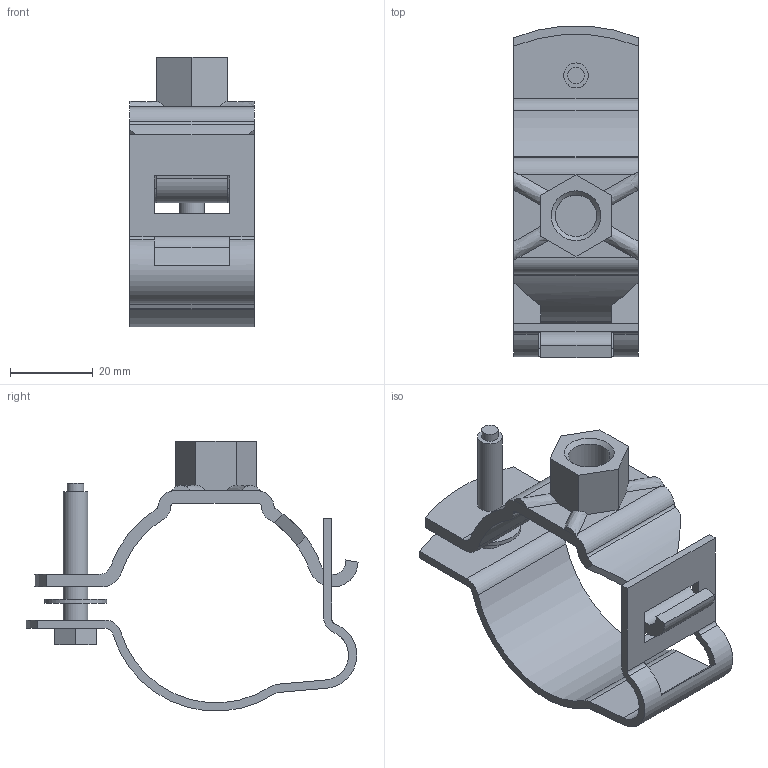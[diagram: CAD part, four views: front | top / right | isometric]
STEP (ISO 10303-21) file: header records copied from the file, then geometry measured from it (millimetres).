
FILE_DESCRIPTION(/* description */ (''),/* implementation_level */ '2;1');
FILE_NAME(/* name */ 'H:\Geberit-Teile\Export\360.843.00.1\stp\360843.stp',/* time_stamp */ '2016-06-20T09:47:51+02:00',/* author */ ('seihe2'),/* organization */ (''),/* preprocessor_version */ 'ST-DEVELOPER v15.2',/* originating_system */ 'Autodesk Inventor 2014',/* authorisation */ '');
FILE_SCHEMA (('AUTOMOTIVE_DESIGN { 1 0 10303 214 3 1 1 }'));
Length unit declared in the file: millimetre
Products named in the file (1): 360843
Bounding box: 30 x 80.17 x 65.14 mm (x, y, z)
Volume: 18352.9 mm3; surface area: 16771.6 mm2
Topology: 4 solids, 4 shells, 98 faces, 263 edges, 175 vertices
Faces by surface type: plane 56, cylinder 37, bspline 4, cone 1
Full cylindrical faces by diameter (mm): 4 x1, 6 x3, 10 x1, 15 x1
Entity records: 3224 total; most frequent: CARTESIAN_POINT 566, DIRECTION 547, ORIENTED_EDGE 512, EDGE_CURVE 256, AXIS2_PLACEMENT_3D 196, VERTEX_POINT 175, LINE 155, VECTOR 155
